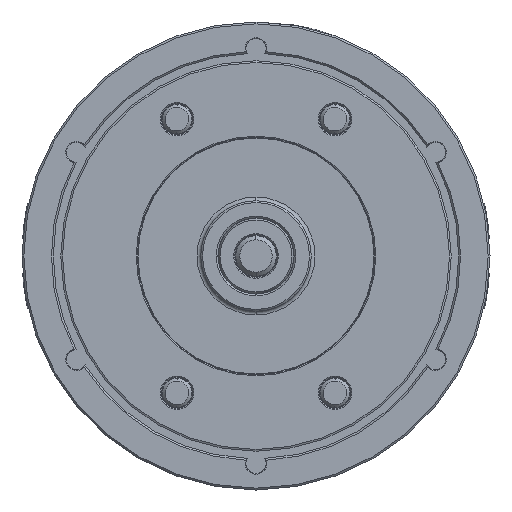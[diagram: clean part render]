
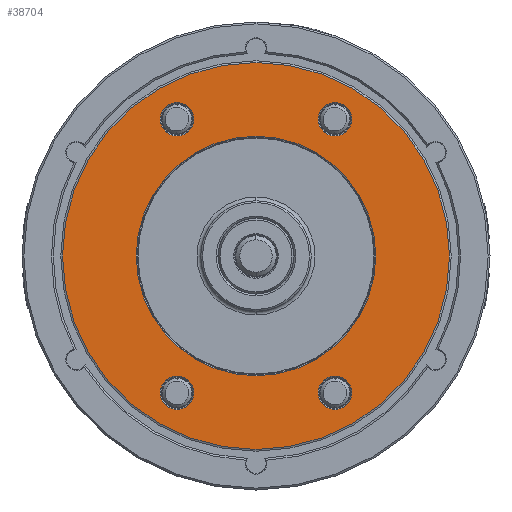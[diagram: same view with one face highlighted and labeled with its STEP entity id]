
A CAD part, left-side view. The second image highlights one B-rep face of the part: STEP entity #38704.
In plain terms, the highlighted planar face has unit normal (-1, 0, 0).
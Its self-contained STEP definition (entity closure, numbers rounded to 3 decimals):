
#1022 = EDGE_CURVE ( 'NONE', #28391, #35184, #31489, .T. ) ;
#1063 = AXIS2_PLACEMENT_3D ( 'NONE', #12355, #38216, #16053 ) ;
#1206 = FACE_BOUND ( 'NONE', #31620, .T. ) ;
#1365 = PLANE ( 'NONE',  #10308 ) ;
#1916 = VERTEX_POINT ( 'NONE', #16728 ) ;
#2179 = DIRECTION ( 'NONE',  ( 1., 0., 0. ) ) ;
#2224 = AXIS2_PLACEMENT_3D ( 'NONE', #38755, #16605, #42421 ) ;
#2349 = CARTESIAN_POINT ( 'NONE',  ( -100., -42.862, 65.14 ) ) ;
#2390 = CARTESIAN_POINT ( 'NONE',  ( -100., 0., 0. ) ) ;
#3326 = DIRECTION ( 'NONE',  ( 0., 1., 0. ) ) ;
#3391 = CARTESIAN_POINT ( 'NONE',  ( -100., -42.862, 74.24 ) ) ;
#3484 = EDGE_LOOP ( 'NONE', ( #45303, #12369 ) ) ;
#3489 = VERTEX_POINT ( 'NONE', #39203 ) ;
#3587 = FACE_BOUND ( 'NONE', #7955, .T. ) ;
#3721 = CIRCLE ( 'NONE', #25050, 9.1 ) ;
#4816 = CIRCLE ( 'NONE', #35981, 9.1 ) ;
#5359 = EDGE_LOOP ( 'NONE', ( #46443, #44910 ) ) ;
#5674 = AXIS2_PLACEMENT_3D ( 'NONE', #42589, #20484, #46337 ) ;
#5902 = EDGE_CURVE ( 'NONE', #37788, #12253, #20057, .T. ) ;
#6139 = DIRECTION ( 'NONE',  ( 0., 1., 0. ) ) ;
#6637 = AXIS2_PLACEMENT_3D ( 'NONE', #3391, #29121, #7111 ) ;
#7111 = DIRECTION ( 'NONE',  ( 0., 0., -1. ) ) ;
#7955 = EDGE_LOOP ( 'NONE', ( #47561, #41802 ) ) ;
#8281 = CIRCLE ( 'NONE', #9098, 105. ) ;
#8981 = CARTESIAN_POINT ( 'NONE',  ( -100., -42.862, 74.24 ) ) ;
#9098 = AXIS2_PLACEMENT_3D ( 'NONE', #2390, #28150, #6139 ) ;
#10308 = AXIS2_PLACEMENT_3D ( 'NONE', #45617, #16058, #43004 ) ;
#10720 = CARTESIAN_POINT ( 'NONE',  ( -100., 42.863, -74.24 ) ) ;
#10872 = VERTEX_POINT ( 'NONE', #43525 ) ;
#11074 = FACE_BOUND ( 'NONE', #42358, .T. ) ;
#11087 = VERTEX_POINT ( 'NONE', #44637 ) ;
#11164 = EDGE_CURVE ( 'NONE', #18211, #11087, #15656, .T. ) ;
#11784 = CARTESIAN_POINT ( 'NONE',  ( -100., 42.863, -83.34 ) ) ;
#12213 = FACE_BOUND ( 'NONE', #3484, .T. ) ;
#12253 = VERTEX_POINT ( 'NONE', #39647 ) ;
#12355 = CARTESIAN_POINT ( 'NONE',  ( -100., 0., 0. ) ) ;
#12369 = ORIENTED_EDGE ( 'NONE', *, *, #1022, .T. ) ;
#12644 = DIRECTION ( 'NONE',  ( 0., 0., -1. ) ) ;
#12999 = AXIS2_PLACEMENT_3D ( 'NONE', #13160, #38851, #3326 ) ;
#13160 = CARTESIAN_POINT ( 'NONE',  ( -100., 0., 0. ) ) ;
#13350 = DIRECTION ( 'NONE',  ( 1., 0., 0. ) ) ;
#13563 = CARTESIAN_POINT ( 'NONE',  ( -100., 0., 0. ) ) ;
#14388 = DIRECTION ( 'NONE',  ( 0., 0., -1. ) ) ;
#14551 = CARTESIAN_POINT ( 'NONE',  ( -100., -42.863, -74.24 ) ) ;
#14846 = EDGE_LOOP ( 'NONE', ( #39260, #44162 ) ) ;
#15266 = AXIS2_PLACEMENT_3D ( 'NONE', #10720, #36506, #14388 ) ;
#15651 = AXIS2_PLACEMENT_3D ( 'NONE', #14551, #40402, #18247 ) ;
#15656 = CIRCLE ( 'NONE', #1063, 105. ) ;
#16053 = DIRECTION ( 'NONE',  ( 0., 1., 0. ) ) ;
#16058 = DIRECTION ( 'NONE',  ( 1., 0., 0. ) ) ;
#16605 = DIRECTION ( 'NONE',  ( 1., 0., 0. ) ) ;
#16728 = CARTESIAN_POINT ( 'NONE',  ( -100., 42.863, -65.14 ) ) ;
#17919 = DIRECTION ( 'NONE',  ( 0., 1., 0. ) ) ;
#18211 = VERTEX_POINT ( 'NONE', #31513 ) ;
#18247 = DIRECTION ( 'NONE',  ( 0., 0., -1. ) ) ;
#18617 = ORIENTED_EDGE ( 'NONE', *, *, #32971, .T. ) ;
#19267 = CIRCLE ( 'NONE', #15651, 9.1 ) ;
#19701 = EDGE_CURVE ( 'NONE', #12253, #37788, #4816, .T. ) ;
#20057 = CIRCLE ( 'NONE', #5674, 9.1 ) ;
#20484 = DIRECTION ( 'NONE',  ( 1., 0., 0. ) ) ;
#20877 = FACE_BOUND ( 'NONE', #5359, .T. ) ;
#22831 = ORIENTED_EDGE ( 'NONE', *, *, #5902, .T. ) ;
#24234 = CARTESIAN_POINT ( 'NONE',  ( -100., -42.863, -74.24 ) ) ;
#24968 = EDGE_CURVE ( 'NONE', #3489, #10872, #3721, .T. ) ;
#25050 = AXIS2_PLACEMENT_3D ( 'NONE', #24234, #2179, #27936 ) ;
#26046 = EDGE_CURVE ( 'NONE', #11087, #18211, #8281, .T. ) ;
#26936 = EDGE_CURVE ( 'NONE', #1916, #34876, #32422, .T. ) ;
#27936 = DIRECTION ( 'NONE',  ( 0., 0., -1. ) ) ;
#28002 = CARTESIAN_POINT ( 'NONE',  ( -100., 0., 65. ) ) ;
#28150 = DIRECTION ( 'NONE',  ( 1., 0., 0. ) ) ;
#28316 = ORIENTED_EDGE ( 'NONE', *, *, #19701, .T. ) ;
#28368 = CIRCLE ( 'NONE', #2224, 9.1 ) ;
#28391 = VERTEX_POINT ( 'NONE', #30962 ) ;
#29121 = DIRECTION ( 'NONE',  ( 1., 0., 0. ) ) ;
#30648 = FACE_OUTER_BOUND ( 'NONE', #14846, .T. ) ;
#30962 = CARTESIAN_POINT ( 'NONE',  ( -100., 0., -65. ) ) ;
#31489 = CIRCLE ( 'NONE', #12999, 65. ) ;
#31513 = CARTESIAN_POINT ( 'NONE',  ( -100., 0., 105. ) ) ;
#31620 = EDGE_LOOP ( 'NONE', ( #22831, #28316 ) ) ;
#32422 = CIRCLE ( 'NONE', #15266, 9.1 ) ;
#32815 = AXIS2_PLACEMENT_3D ( 'NONE', #8981, #34786, #12644 ) ;
#32971 = EDGE_CURVE ( 'NONE', #41745, #37734, #36566, .T. ) ;
#33336 = CARTESIAN_POINT ( 'NONE',  ( -100., 42.862, 83.34 ) ) ;
#34786 = DIRECTION ( 'NONE',  ( 1., 0., 0. ) ) ;
#34876 = VERTEX_POINT ( 'NONE', #11784 ) ;
#35184 = VERTEX_POINT ( 'NONE', #28002 ) ;
#35480 = CARTESIAN_POINT ( 'NONE',  ( -100., 42.862, 74.24 ) ) ;
#35837 = AXIS2_PLACEMENT_3D ( 'NONE', #13563, #39414, #17919 ) ;
#35981 = AXIS2_PLACEMENT_3D ( 'NONE', #35480, #13350, #39201 ) ;
#36506 = DIRECTION ( 'NONE',  ( 1., 0., 0. ) ) ;
#36566 = CIRCLE ( 'NONE', #6637, 9.1 ) ;
#37734 = VERTEX_POINT ( 'NONE', #39030 ) ;
#37788 = VERTEX_POINT ( 'NONE', #33336 ) ;
#38216 = DIRECTION ( 'NONE',  ( 1., 0., 0. ) ) ;
#38278 = EDGE_CURVE ( 'NONE', #34876, #1916, #28368, .T. ) ;
#38704 = ADVANCED_FACE ( 'NONE', ( #30648, #12213, #20877, #3587, #11074, #1206 ), #1365, .F. ) ;
#38755 = CARTESIAN_POINT ( 'NONE',  ( -100., 42.863, -74.24 ) ) ;
#38851 = DIRECTION ( 'NONE',  ( 1., 0., 0. ) ) ;
#39003 = ORIENTED_EDGE ( 'NONE', *, *, #47368, .T. ) ;
#39030 = CARTESIAN_POINT ( 'NONE',  ( -100., -42.862, 83.34 ) ) ;
#39201 = DIRECTION ( 'NONE',  ( 0., 0., -1. ) ) ;
#39203 = CARTESIAN_POINT ( 'NONE',  ( -100., -42.863, -83.34 ) ) ;
#39260 = ORIENTED_EDGE ( 'NONE', *, *, #26046, .F. ) ;
#39414 = DIRECTION ( 'NONE',  ( 1., 0., 0. ) ) ;
#39647 = CARTESIAN_POINT ( 'NONE',  ( -100., 42.862, 65.14 ) ) ;
#40402 = DIRECTION ( 'NONE',  ( 1., 0., 0. ) ) ;
#41745 = VERTEX_POINT ( 'NONE', #2349 ) ;
#41802 = ORIENTED_EDGE ( 'NONE', *, *, #24968, .T. ) ;
#42358 = EDGE_LOOP ( 'NONE', ( #39003, #18617 ) ) ;
#42421 = DIRECTION ( 'NONE',  ( 0., 0., -1. ) ) ;
#42589 = CARTESIAN_POINT ( 'NONE',  ( -100., 42.862, 74.24 ) ) ;
#42958 = EDGE_CURVE ( 'NONE', #10872, #3489, #19267, .T. ) ;
#43004 = DIRECTION ( 'NONE',  ( 0., 1., 0. ) ) ;
#43161 = CIRCLE ( 'NONE', #35837, 65. ) ;
#43525 = CARTESIAN_POINT ( 'NONE',  ( -100., -42.863, -65.14 ) ) ;
#44162 = ORIENTED_EDGE ( 'NONE', *, *, #11164, .F. ) ;
#44637 = CARTESIAN_POINT ( 'NONE',  ( -100., 0., -105. ) ) ;
#44910 = ORIENTED_EDGE ( 'NONE', *, *, #38278, .T. ) ;
#45158 = EDGE_CURVE ( 'NONE', #35184, #28391, #43161, .T. ) ;
#45303 = ORIENTED_EDGE ( 'NONE', *, *, #45158, .T. ) ;
#45617 = CARTESIAN_POINT ( 'NONE',  ( -100., -105., 0. ) ) ;
#46337 = DIRECTION ( 'NONE',  ( 0., 0., -1. ) ) ;
#46443 = ORIENTED_EDGE ( 'NONE', *, *, #26936, .T. ) ;
#46583 = CIRCLE ( 'NONE', #32815, 9.1 ) ;
#47368 = EDGE_CURVE ( 'NONE', #37734, #41745, #46583, .T. ) ;
#47561 = ORIENTED_EDGE ( 'NONE', *, *, #42958, .T. ) ;
